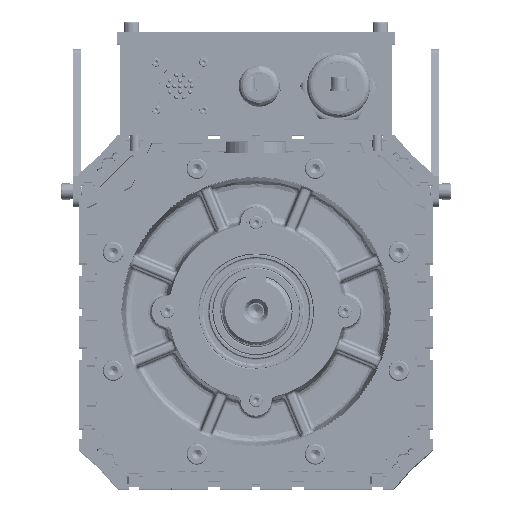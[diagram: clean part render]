
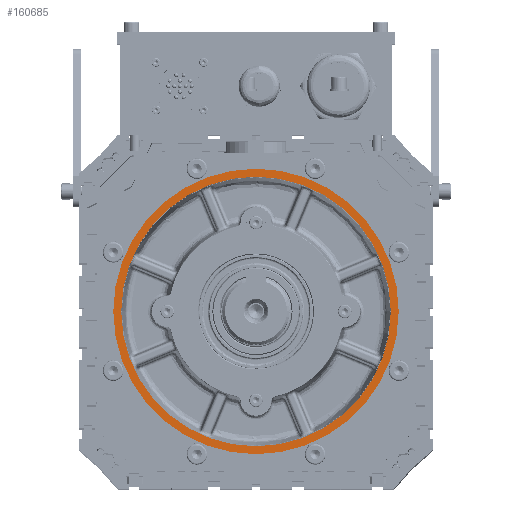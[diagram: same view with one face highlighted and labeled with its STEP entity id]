
A CAD part, top view. The second image highlights one B-rep face of the part: STEP entity #160685.
In plain terms, the highlighted planar face has unit normal (0, 0, 1) as drawn and (0, 0, -1) by its records, which use the part's own axes.
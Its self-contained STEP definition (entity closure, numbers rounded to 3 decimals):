
#3780 = ORIENTED_EDGE ( 'NONE', *, *, #188015, .F. ) ;
#9409 = DIRECTION ( 'NONE',  ( -1., 0., 0. ) ) ;
#17156 = AXIS2_PLACEMENT_3D ( 'NONE', #73005, #174640, #45062 ) ;
#20757 = CIRCLE ( 'NONE', #58806, 85. ) ;
#20960 = DIRECTION ( 'NONE',  ( 0., 0., 1. ) ) ;
#26136 = VERTEX_POINT ( 'NONE', #92694 ) ;
#29615 = AXIS2_PLACEMENT_3D ( 'NONE', #183560, #38077, #9409 ) ;
#30398 = CIRCLE ( 'NONE', #29615, 90. ) ;
#35620 = DIRECTION ( 'NONE',  ( -1., 0., 0. ) ) ;
#38077 = DIRECTION ( 'NONE',  ( 0., 0., 1. ) ) ;
#40953 = CARTESIAN_POINT ( 'NONE',  ( 61.636, -25.305, 205. ) ) ;
#41067 = EDGE_CURVE ( 'NONE', #26136, #92117, #20757, .T. ) ;
#43004 = AXIS2_PLACEMENT_3D ( 'NONE', #65170, #180135, #51205 ) ;
#43256 = VERTEX_POINT ( 'NONE', #40953 ) ;
#45062 = DIRECTION ( 'NONE',  ( 1., 0., 0. ) ) ;
#46811 = EDGE_LOOP ( 'NONE', ( #100077, #3780 ) ) ;
#49593 = CIRCLE ( 'NONE', #43004, 85. ) ;
#51205 = DIRECTION ( 'NONE',  ( -1., 0., 0. ) ) ;
#55247 = VERTEX_POINT ( 'NONE', #90279 ) ;
#58449 = PLANE ( 'NONE',  #17156 ) ;
#58806 = AXIS2_PLACEMENT_3D ( 'NONE', #72543, #87766, #188834 ) ;
#65170 = CARTESIAN_POINT ( 'NONE',  ( -28.364, -25.305, 205. ) ) ;
#67712 = EDGE_CURVE ( 'NONE', #92117, #26136, #49593, .T. ) ;
#71971 = AXIS2_PLACEMENT_3D ( 'NONE', #150022, #20960, #35620 ) ;
#72543 = CARTESIAN_POINT ( 'NONE',  ( -28.364, -25.305, 205. ) ) ;
#73005 = CARTESIAN_POINT ( 'NONE',  ( -28.364, -115.305, 205. ) ) ;
#75613 = FACE_OUTER_BOUND ( 'NONE', #46811, .T. ) ;
#80751 = EDGE_LOOP ( 'NONE', ( #112047, #176143 ) ) ;
#87766 = DIRECTION ( 'NONE',  ( 0., 0., -1. ) ) ;
#90199 = CIRCLE ( 'NONE', #71971, 90. ) ;
#90279 = CARTESIAN_POINT ( 'NONE',  ( -118.364, -25.305, 205. ) ) ;
#92117 = VERTEX_POINT ( 'NONE', #96406 ) ;
#92694 = CARTESIAN_POINT ( 'NONE',  ( 56.636, -25.305, 205. ) ) ;
#96406 = CARTESIAN_POINT ( 'NONE',  ( -113.364, -25.305, 205. ) ) ;
#100077 = ORIENTED_EDGE ( 'NONE', *, *, #186336, .F. ) ;
#112047 = ORIENTED_EDGE ( 'NONE', *, *, #67712, .F. ) ;
#150022 = CARTESIAN_POINT ( 'NONE',  ( -28.364, -25.305, 205. ) ) ;
#159711 = FACE_BOUND ( 'NONE', #80751, .T. ) ;
#160685 = ADVANCED_FACE ( 'NONE', ( #75613, #159711 ), #58449, .F. ) ;
#174640 = DIRECTION ( 'NONE',  ( 0., 0., 1. ) ) ;
#176143 = ORIENTED_EDGE ( 'NONE', *, *, #41067, .F. ) ;
#180135 = DIRECTION ( 'NONE',  ( 0., 0., -1. ) ) ;
#183560 = CARTESIAN_POINT ( 'NONE',  ( -28.364, -25.305, 205. ) ) ;
#186336 = EDGE_CURVE ( 'NONE', #55247, #43256, #90199, .T. ) ;
#188015 = EDGE_CURVE ( 'NONE', #43256, #55247, #30398, .T. ) ;
#188834 = DIRECTION ( 'NONE',  ( -1., 0., 0. ) ) ;
